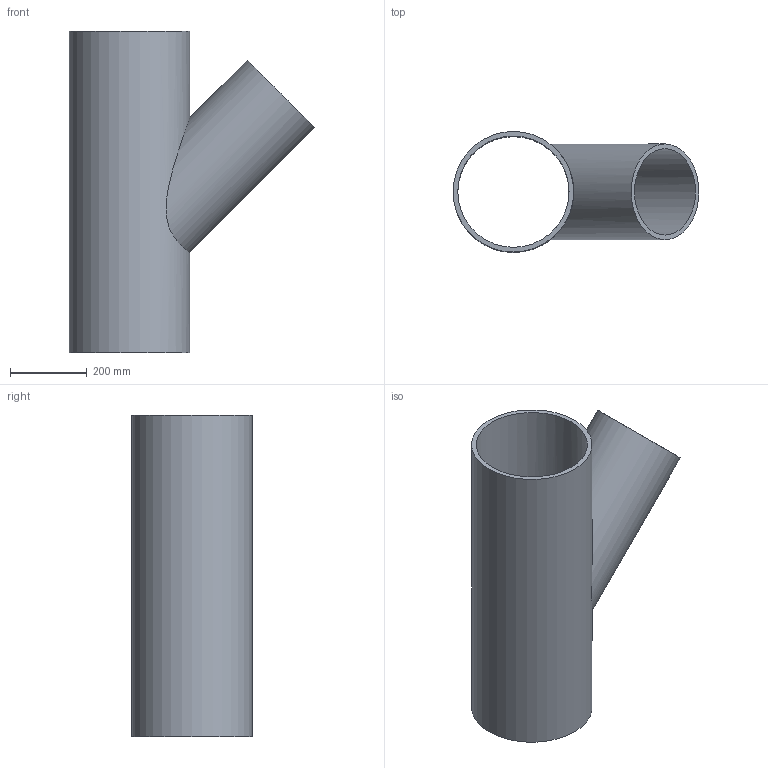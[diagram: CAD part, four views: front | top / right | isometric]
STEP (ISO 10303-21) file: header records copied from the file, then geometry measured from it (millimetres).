
FILE_DESCRIPTION(/* description */ (''),/* implementation_level */ '2;1');
FILE_NAME(/* name */ 'C:\Planerdaten\Export PLA\PRO_101557\stp\372147.stp',/* time_stamp */ '2021-09-30T15:10:19+02:00',/* author */ ('JANAN'),/* organization */ (''),/* preprocessor_version */ 'ST-DEVELOPER v16.13',/* originating_system */ 'Autodesk Inventor 2018',/* authorisation */ '');
FILE_SCHEMA (('AUTOMOTIVE_DESIGN { 1 0 10303 214 3 1 1 }'));
Length unit declared in the file: millimetre
Products named in the file (1): tmp3E49.tmp
Bounding box: 641.87 x 315 x 840 mm (x, y, z)
Volume: 12393563.6 mm3; surface area: 2064810 mm2
Topology: 1 solids, 1 shells, 7 faces, 17 edges, 12 vertices
Faces by surface type: cylinder 4, plane 3
Full cylindrical faces by diameter (mm): 225.6 x1, 250 x1, 290.6 x1, 315 x1
Entity records: 408 total; most frequent: CARTESIAN_POINT 230, DIRECTION 28, EDGE_LOOP 16, ORIENTED_EDGE 16, AXIS2_PLACEMENT_3D 14, FACE_BOUND 9, VERTEX_POINT 8, EDGE_CURVE 8
